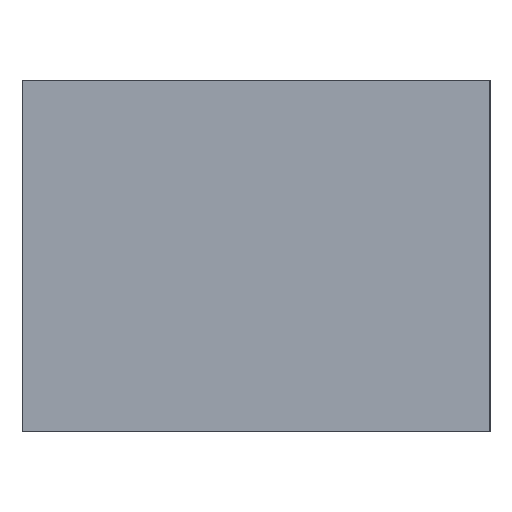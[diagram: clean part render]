
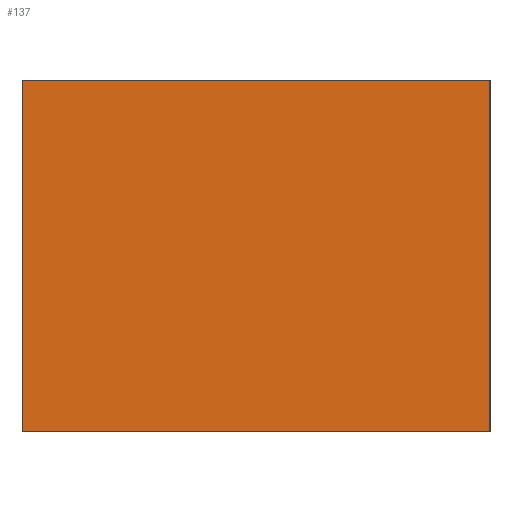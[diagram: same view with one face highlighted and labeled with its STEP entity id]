
A CAD part, left-side view. The second image highlights one B-rep face of the part: STEP entity #137.
In plain terms, the highlighted planar face has unit normal (-1, 0, 0).
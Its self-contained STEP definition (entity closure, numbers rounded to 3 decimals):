
#32 = PLANE('',#33);
#33 = AXIS2_PLACEMENT_3D('',#34,#35,#36);
#34 = CARTESIAN_POINT('',(130.,186.5,69.));
#35 = DIRECTION('',(0.,-1.,0.));
#36 = DIRECTION('',(-1.,0.,0.));
#57 = VERTEX_POINT('',#58);
#58 = CARTESIAN_POINT('',(110.,186.5,75.));
#72 = PLANE('',#73);
#73 = AXIS2_PLACEMENT_3D('',#74,#75,#76);
#74 = CARTESIAN_POINT('',(120.,190.5,75.));
#75 = DIRECTION('',(-0.,-0.,-1.));
#76 = DIRECTION('',(-1.,0.,0.));
#84 = EDGE_CURVE('',#85,#57,#87,.T.);
#85 = VERTEX_POINT('',#86);
#86 = CARTESIAN_POINT('',(110.,186.5,69.));
#87 = SURFACE_CURVE('',#88,(#92,#99),.PCURVE_S1.);
#88 = LINE('',#89,#90);
#89 = CARTESIAN_POINT('',(110.,186.5,69.));
#90 = VECTOR('',#91,1.);
#91 = DIRECTION('',(0.,0.,1.));
#92 = PCURVE('',#32,#93);
#93 = DEFINITIONAL_REPRESENTATION('',(#94),#98);
#94 = LINE('',#95,#96);
#95 = CARTESIAN_POINT('',(20.,0.));
#96 = VECTOR('',#97,1.);
#97 = DIRECTION('',(0.,-1.));
#98 = ( GEOMETRIC_REPRESENTATION_CONTEXT(2) 
PARAMETRIC_REPRESENTATION_CONTEXT() REPRESENTATION_CONTEXT('2D SPACE',''
  ) );
#99 = PCURVE('',#100,#105);
#100 = PLANE('',#101);
#101 = AXIS2_PLACEMENT_3D('',#102,#103,#104);
#102 = CARTESIAN_POINT('',(110.,186.5,69.));
#103 = DIRECTION('',(-1.,0.,0.));
#104 = DIRECTION('',(0.,1.,0.));
#105 = DEFINITIONAL_REPRESENTATION('',(#106),#110);
#106 = LINE('',#107,#108);
#107 = CARTESIAN_POINT('',(0.,0.));
#108 = VECTOR('',#109,1.);
#109 = DIRECTION('',(0.,-1.));
#110 = ( GEOMETRIC_REPRESENTATION_CONTEXT(2) 
PARAMETRIC_REPRESENTATION_CONTEXT() REPRESENTATION_CONTEXT('2D SPACE',''
  ) );
#126 = PLANE('',#127);
#127 = AXIS2_PLACEMENT_3D('',#128,#129,#130);
#128 = CARTESIAN_POINT('',(120.,190.5,69.));
#129 = DIRECTION('',(-0.,-0.,-1.));
#130 = DIRECTION('',(-1.,0.,0.));
#137 = ADVANCED_FACE('',(#138),#100,.T.);
#138 = FACE_BOUND('',#139,.T.);
#139 = EDGE_LOOP('',(#140,#141,#164,#192));
#140 = ORIENTED_EDGE('',*,*,#84,.T.);
#141 = ORIENTED_EDGE('',*,*,#142,.T.);
#142 = EDGE_CURVE('',#57,#143,#145,.T.);
#143 = VERTEX_POINT('',#144);
#144 = CARTESIAN_POINT('',(110.,194.5,75.));
#145 = SURFACE_CURVE('',#146,(#150,#157),.PCURVE_S1.);
#146 = LINE('',#147,#148);
#147 = CARTESIAN_POINT('',(110.,186.5,75.));
#148 = VECTOR('',#149,1.);
#149 = DIRECTION('',(0.,1.,0.));
#150 = PCURVE('',#100,#151);
#151 = DEFINITIONAL_REPRESENTATION('',(#152),#156);
#152 = LINE('',#153,#154);
#153 = CARTESIAN_POINT('',(0.,-6.));
#154 = VECTOR('',#155,1.);
#155 = DIRECTION('',(1.,0.));
#156 = ( GEOMETRIC_REPRESENTATION_CONTEXT(2) 
PARAMETRIC_REPRESENTATION_CONTEXT() REPRESENTATION_CONTEXT('2D SPACE',''
  ) );
#157 = PCURVE('',#72,#158);
#158 = DEFINITIONAL_REPRESENTATION('',(#159),#163);
#159 = LINE('',#160,#161);
#160 = CARTESIAN_POINT('',(10.,-4.));
#161 = VECTOR('',#162,1.);
#162 = DIRECTION('',(0.,1.));
#163 = ( GEOMETRIC_REPRESENTATION_CONTEXT(2) 
PARAMETRIC_REPRESENTATION_CONTEXT() REPRESENTATION_CONTEXT('2D SPACE',''
  ) );
#164 = ORIENTED_EDGE('',*,*,#165,.F.);
#165 = EDGE_CURVE('',#166,#143,#168,.T.);
#166 = VERTEX_POINT('',#167);
#167 = CARTESIAN_POINT('',(110.,194.5,69.));
#168 = SURFACE_CURVE('',#169,(#173,#180),.PCURVE_S1.);
#169 = LINE('',#170,#171);
#170 = CARTESIAN_POINT('',(110.,194.5,69.));
#171 = VECTOR('',#172,1.);
#172 = DIRECTION('',(0.,0.,1.));
#173 = PCURVE('',#100,#174);
#174 = DEFINITIONAL_REPRESENTATION('',(#175),#179);
#175 = LINE('',#176,#177);
#176 = CARTESIAN_POINT('',(8.,0.));
#177 = VECTOR('',#178,1.);
#178 = DIRECTION('',(0.,-1.));
#179 = ( GEOMETRIC_REPRESENTATION_CONTEXT(2) 
PARAMETRIC_REPRESENTATION_CONTEXT() REPRESENTATION_CONTEXT('2D SPACE',''
  ) );
#180 = PCURVE('',#181,#186);
#181 = PLANE('',#182);
#182 = AXIS2_PLACEMENT_3D('',#183,#184,#185);
#183 = CARTESIAN_POINT('',(110.,194.5,69.));
#184 = DIRECTION('',(0.,1.,0.));
#185 = DIRECTION('',(1.,0.,0.));
#186 = DEFINITIONAL_REPRESENTATION('',(#187),#191);
#187 = LINE('',#188,#189);
#188 = CARTESIAN_POINT('',(0.,0.));
#189 = VECTOR('',#190,1.);
#190 = DIRECTION('',(0.,-1.));
#191 = ( GEOMETRIC_REPRESENTATION_CONTEXT(2) 
PARAMETRIC_REPRESENTATION_CONTEXT() REPRESENTATION_CONTEXT('2D SPACE',''
  ) );
#192 = ORIENTED_EDGE('',*,*,#193,.F.);
#193 = EDGE_CURVE('',#85,#166,#194,.T.);
#194 = SURFACE_CURVE('',#195,(#199,#206),.PCURVE_S1.);
#195 = LINE('',#196,#197);
#196 = CARTESIAN_POINT('',(110.,186.5,69.));
#197 = VECTOR('',#198,1.);
#198 = DIRECTION('',(0.,1.,0.));
#199 = PCURVE('',#100,#200);
#200 = DEFINITIONAL_REPRESENTATION('',(#201),#205);
#201 = LINE('',#202,#203);
#202 = CARTESIAN_POINT('',(0.,0.));
#203 = VECTOR('',#204,1.);
#204 = DIRECTION('',(1.,0.));
#205 = ( GEOMETRIC_REPRESENTATION_CONTEXT(2) 
PARAMETRIC_REPRESENTATION_CONTEXT() REPRESENTATION_CONTEXT('2D SPACE',''
  ) );
#206 = PCURVE('',#126,#207);
#207 = DEFINITIONAL_REPRESENTATION('',(#208),#212);
#208 = LINE('',#209,#210);
#209 = CARTESIAN_POINT('',(10.,-4.));
#210 = VECTOR('',#211,1.);
#211 = DIRECTION('',(0.,1.));
#212 = ( GEOMETRIC_REPRESENTATION_CONTEXT(2) 
PARAMETRIC_REPRESENTATION_CONTEXT() REPRESENTATION_CONTEXT('2D SPACE',''
  ) );
